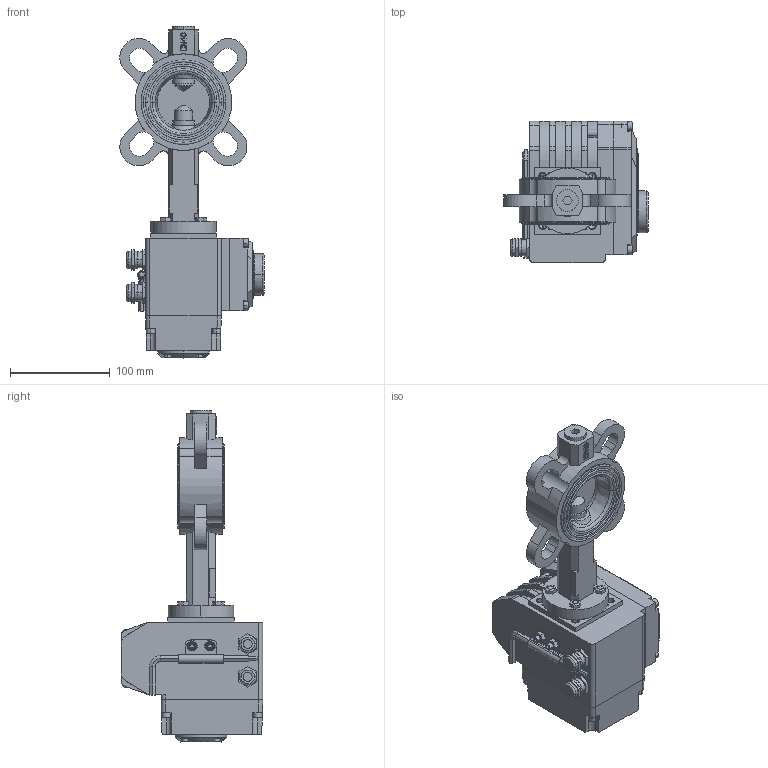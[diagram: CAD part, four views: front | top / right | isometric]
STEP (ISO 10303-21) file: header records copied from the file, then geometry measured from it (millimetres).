
FILE_DESCRIPTION((''),'2;1');
FILE_NAME('VBS_EAR_T_ASM','2025-02-22T',('AMD'),(''),'PRO/ENGINEER BY PARAMETRIC TECHNOLOGY CORPORATION, 2008020','PRO/ENGINEER BY PARAMETRIC TECHNOLOGY CORPORATION, 2008020','');
FILE_SCHEMA(('CONFIG_CONTROL_DESIGN'));
Length unit declared in the file: millimetre
Products named in the file (24): KORPUS; REZ; DISK; SHTIR_1; ZAGLUSHKA; O-RING; SHTIR_2; SHAIBA_RAZREZ; SHAIBA; KOLCO_22_GOST13943; VTULKA; MANZET_REZ; SB_ASM; B-7798-M6-20; DET_1; V-11738-M5; V-11738-M4; DET_2; KREPLENIE; KLUCH; DET_3; G-5915-M6; ELECTROPRIVOD_ASM; VBS_EAR_T_ASM
Assembly tree (43 placements, depth 3):
  VBS_EAR_T_ASM
    SB_ASM
      KORPUS
      REZ
      DISK
      SHTIR_1
      ZAGLUSHKA
      O-RING  x2
      SHTIR_2
      SHAIBA_RAZREZ
      SHAIBA  x2
      KOLCO_22_GOST13943
      VTULKA  x5
      MANZET_REZ
    B-7798-M6-20  x4
    ELECTROPRIVOD_ASM
      DET_1
      V-11738-M5  x8
      V-11738-M4  x4
      DET_2
      KREPLENIE
      KLUCH
      DET_3
      G-5915-M6  x2
Bounding box: 144.83 x 142 x 333.5 mm (x, y, z)
Volume: 1746957.9 mm3; surface area: 294750.7 mm2
Topology: 41 solids, 78 shells, 1567 faces, 4018 edges, 2635 vertices
Faces by surface type: plane 991, cylinder 440, cone 98, torus 38
Entity records: 40940 total; most frequent: CARTESIAN_POINT 7664, DIRECTION 6986, ORIENTED_EDGE 6636, EDGE_CURVE 3366, VECTOR 2394, LINE 2394, AXIS2_PLACEMENT_3D 2296, VERTEX_POINT 2225
